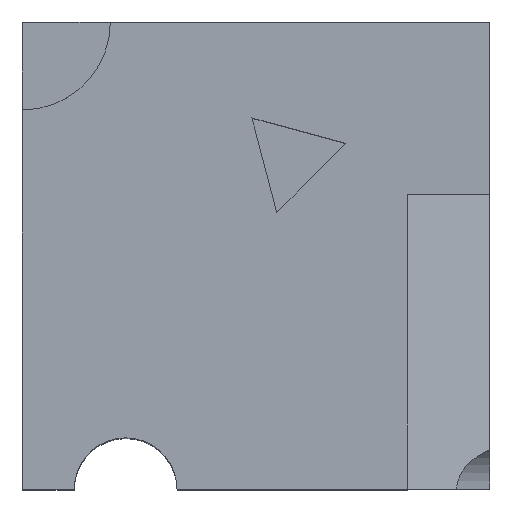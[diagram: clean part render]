
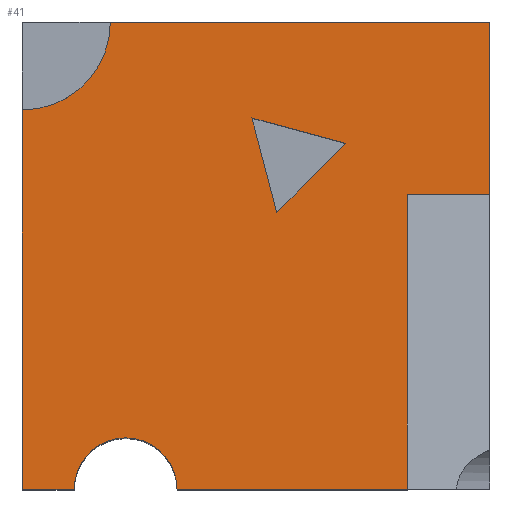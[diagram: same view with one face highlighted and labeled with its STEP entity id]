
A CAD part, top view. The second image highlights one B-rep face of the part: STEP entity #41.
In plain terms, the highlighted planar face has unit normal (0, 0, 1).
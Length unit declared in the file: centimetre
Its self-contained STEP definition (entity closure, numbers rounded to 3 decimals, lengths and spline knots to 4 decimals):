
#9 = DIRECTION ( 'NONE',  ( 0., 0., 1. ) ) ;
#22 = VECTOR ( 'NONE', #338, 100. ) ;
#36 = CARTESIAN_POINT ( 'NONE',  ( 692.12, 740.3215, 1000. ) ) ;
#41 = ADVANCED_FACE ( 'NONE', ( #658, #1015 ), #296, .T. ) ;
#63 = ORIENTED_EDGE ( 'NONE', *, *, #456, .F. ) ;
#75 = LINE ( 'NONE', #914, #1516 ) ;
#98 = CARTESIAN_POINT ( 'NONE',  ( 188.173, 1000., 1000. ) ) ;
#103 = EDGE_CURVE ( 'NONE', #414, #1040, #902, .T. ) ;
#130 = ORIENTED_EDGE ( 'NONE', *, *, #670, .T. ) ;
#144 = CARTESIAN_POINT ( 'NONE',  ( 823.9721, 631.1135, 1000. ) ) ;
#156 = LINE ( 'NONE', #778, #1159 ) ;
#160 = DIRECTION ( 'NONE',  ( 1., 0., 0. ) ) ;
#164 = VERTEX_POINT ( 'NONE', #1259 ) ;
#167 = ORIENTED_EDGE ( 'NONE', *, *, #314, .T. ) ;
#183 = VERTEX_POINT ( 'NONE', #940 ) ;
#196 = CARTESIAN_POINT ( 'NONE',  ( 823.9721, 631.1135, 1000. ) ) ;
#197 = DIRECTION ( 'NONE',  ( 1., 0., 0. ) ) ;
#226 = VECTOR ( 'NONE', #907, 100. ) ;
#228 = DIRECTION ( 'NONE',  ( -1., 0., 0. ) ) ;
#235 = ORIENTED_EDGE ( 'NONE', *, *, #412, .F. ) ;
#247 = DIRECTION ( 'NONE',  ( 1., 0., 0. ) ) ;
#256 = VERTEX_POINT ( 'NONE', #1176 ) ;
#268 = DIRECTION ( 'NONE',  ( -1., 0., 0. ) ) ;
#276 = VECTOR ( 'NONE', #228, 100. ) ;
#293 = VERTEX_POINT ( 'NONE', #557 ) ;
#296 = PLANE ( 'NONE',  #1071 ) ;
#298 = CIRCLE ( 'NONE', #1149, 188.173 ) ;
#300 = DIRECTION ( 'NONE',  ( 0., -1., 0. ) ) ;
#314 = EDGE_CURVE ( 'NONE', #183, #673, #1307, .T. ) ;
#325 = CARTESIAN_POINT ( 'NONE',  ( 692.12, 740.3215, 1000. ) ) ;
#338 = DIRECTION ( 'NONE',  ( 1., 0., 0. ) ) ;
#366 = EDGE_CURVE ( 'NONE', #1133, #164, #1510, .T. ) ;
#397 = DIRECTION ( 'NONE',  ( 0., 0., 1. ) ) ;
#412 = EDGE_CURVE ( 'NONE', #256, #1133, #156, .T. ) ;
#414 = VERTEX_POINT ( 'NONE', #654 ) ;
#453 = VECTOR ( 'NONE', #197, 100. ) ;
#455 = VECTOR ( 'NONE', #924, 100. ) ;
#456 = EDGE_CURVE ( 'NONE', #164, #256, #1282, .T. ) ;
#507 = EDGE_LOOP ( 'NONE', ( #1039, #235, #63 ) ) ;
#531 = DIRECTION ( 'NONE',  ( 0., 1., 0. ) ) ;
#537 = CARTESIAN_POINT ( 'NONE',  ( 823.9721, 631.1135, 1000. ) ) ;
#548 = EDGE_CURVE ( 'NONE', #1040, #1150, #1407, .T. ) ;
#557 = CARTESIAN_POINT ( 'NONE',  ( 330.9837, 0., 1000. ) ) ;
#564 = CARTESIAN_POINT ( 'NONE',  ( 0., 0., 1000. ) ) ;
#572 = CARTESIAN_POINT ( 'NONE',  ( 823.9721, 0., 1000. ) ) ;
#579 = VERTEX_POINT ( 'NONE', #816 ) ;
#583 = CIRCLE ( 'NONE', #1184, 109.948 ) ;
#587 = CARTESIAN_POINT ( 'NONE',  ( 0., 1000., 1000. ) ) ;
#602 = CARTESIAN_POINT ( 'NONE',  ( 0., 0., 1000. ) ) ;
#613 = ORIENTED_EDGE ( 'NONE', *, *, #548, .F. ) ;
#620 = ORIENTED_EDGE ( 'NONE', *, *, #1253, .T. ) ;
#649 = CARTESIAN_POINT ( 'NONE',  ( 0., 0., 1000. ) ) ;
#654 = CARTESIAN_POINT ( 'NONE',  ( 1000., 631.1135, 1000. ) ) ;
#658 = FACE_BOUND ( 'NONE', #507, .T. ) ;
#670 = EDGE_CURVE ( 'NONE', #1401, #183, #75, .T. ) ;
#673 = VERTEX_POINT ( 'NONE', #1189 ) ;
#689 = CARTESIAN_POINT ( 'NONE',  ( 1000., 1000., 1000. ) ) ;
#700 = LINE ( 'NONE', #689, #811 ) ;
#778 = CARTESIAN_POINT ( 'NONE',  ( 544.5058, 592.7074, 1000. ) ) ;
#811 = VECTOR ( 'NONE', #531, 100. ) ;
#816 = CARTESIAN_POINT ( 'NONE',  ( 1000., 1000., 1000. ) ) ;
#835 = EDGE_CURVE ( 'NONE', #293, #1150, #1223, .T. ) ;
#839 = DIRECTION ( 'NONE',  ( 1., 0., 0. ) ) ;
#861 = EDGE_CURVE ( 'NONE', #293, #673, #583, .T. ) ;
#867 = VERTEX_POINT ( 'NONE', #98 ) ;
#879 = DIRECTION ( 'NONE',  ( 0.707, 0.707, 0. ) ) ;
#884 = EDGE_CURVE ( 'NONE', #579, #867, #1105, .T. ) ;
#898 = DIRECTION ( 'NONE',  ( -0.965, 0.261, 0. ) ) ;
#902 = LINE ( 'NONE', #537, #1181 ) ;
#907 = DIRECTION ( 'NONE',  ( 0.255, -0.967, 0. ) ) ;
#914 = CARTESIAN_POINT ( 'NONE',  ( 0., 1000., 1000. ) ) ;
#924 = DIRECTION ( 'NONE',  ( 0., -1., 0. ) ) ;
#940 = CARTESIAN_POINT ( 'NONE',  ( 0., 0., 1000. ) ) ;
#963 = CARTESIAN_POINT ( 'NONE',  ( 221.0357, 0., 1000. ) ) ;
#973 = ORIENTED_EDGE ( 'NONE', *, *, #103, .F. ) ;
#1015 = FACE_OUTER_BOUND ( 'NONE', #1145, .T. ) ;
#1039 = ORIENTED_EDGE ( 'NONE', *, *, #366, .F. ) ;
#1040 = VERTEX_POINT ( 'NONE', #144 ) ;
#1071 = AXIS2_PLACEMENT_3D ( 'NONE', #649, #397, #160 ) ;
#1073 = VECTOR ( 'NONE', #898, 100. ) ;
#1105 = LINE ( 'NONE', #587, #276 ) ;
#1109 = EDGE_CURVE ( 'NONE', #1401, #867, #298, .T. ) ;
#1133 = VERTEX_POINT ( 'NONE', #325 ) ;
#1145 = EDGE_LOOP ( 'NONE', ( #613, #973, #620, #1269, #1412, #130, #167, #1370, #1469 ) ) ;
#1149 = AXIS2_PLACEMENT_3D ( 'NONE', #1354, #9, #247 ) ;
#1150 = VERTEX_POINT ( 'NONE', #572 ) ;
#1159 = VECTOR ( 'NONE', #879, 100. ) ;
#1176 = CARTESIAN_POINT ( 'NONE',  ( 544.5058, 592.7074, 1000. ) ) ;
#1181 = VECTOR ( 'NONE', #268, 100. ) ;
#1184 = AXIS2_PLACEMENT_3D ( 'NONE', #963, #1578, #839 ) ;
#1189 = CARTESIAN_POINT ( 'NONE',  ( 111.0877, 0., 1000. ) ) ;
#1223 = LINE ( 'NONE', #602, #22 ) ;
#1225 = CARTESIAN_POINT ( 'NONE',  ( 0., 811.827, 1000. ) ) ;
#1253 = EDGE_CURVE ( 'NONE', #414, #579, #700, .T. ) ;
#1259 = CARTESIAN_POINT ( 'NONE',  ( 491.274, 794.5661, 1000. ) ) ;
#1269 = ORIENTED_EDGE ( 'NONE', *, *, #884, .T. ) ;
#1282 = LINE ( 'NONE', #1494, #226 ) ;
#1307 = LINE ( 'NONE', #564, #453 ) ;
#1354 = CARTESIAN_POINT ( 'NONE',  ( 0., 1000., 1000. ) ) ;
#1370 = ORIENTED_EDGE ( 'NONE', *, *, #861, .F. ) ;
#1401 = VERTEX_POINT ( 'NONE', #1225 ) ;
#1407 = LINE ( 'NONE', #196, #455 ) ;
#1412 = ORIENTED_EDGE ( 'NONE', *, *, #1109, .F. ) ;
#1469 = ORIENTED_EDGE ( 'NONE', *, *, #835, .T. ) ;
#1494 = CARTESIAN_POINT ( 'NONE',  ( 491.274, 794.5661, 1000. ) ) ;
#1510 = LINE ( 'NONE', #36, #1073 ) ;
#1516 = VECTOR ( 'NONE', #300, 100. ) ;
#1578 = DIRECTION ( 'NONE',  ( 0., 0., 1. ) ) ;
